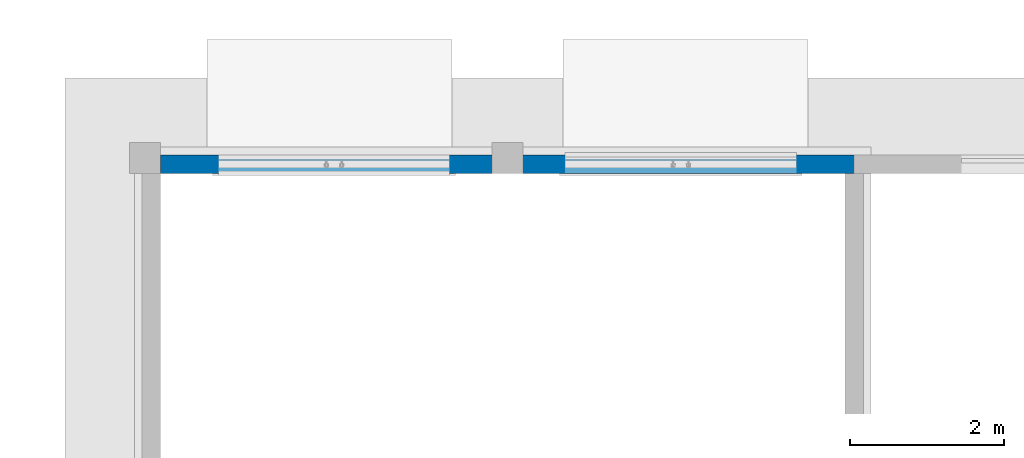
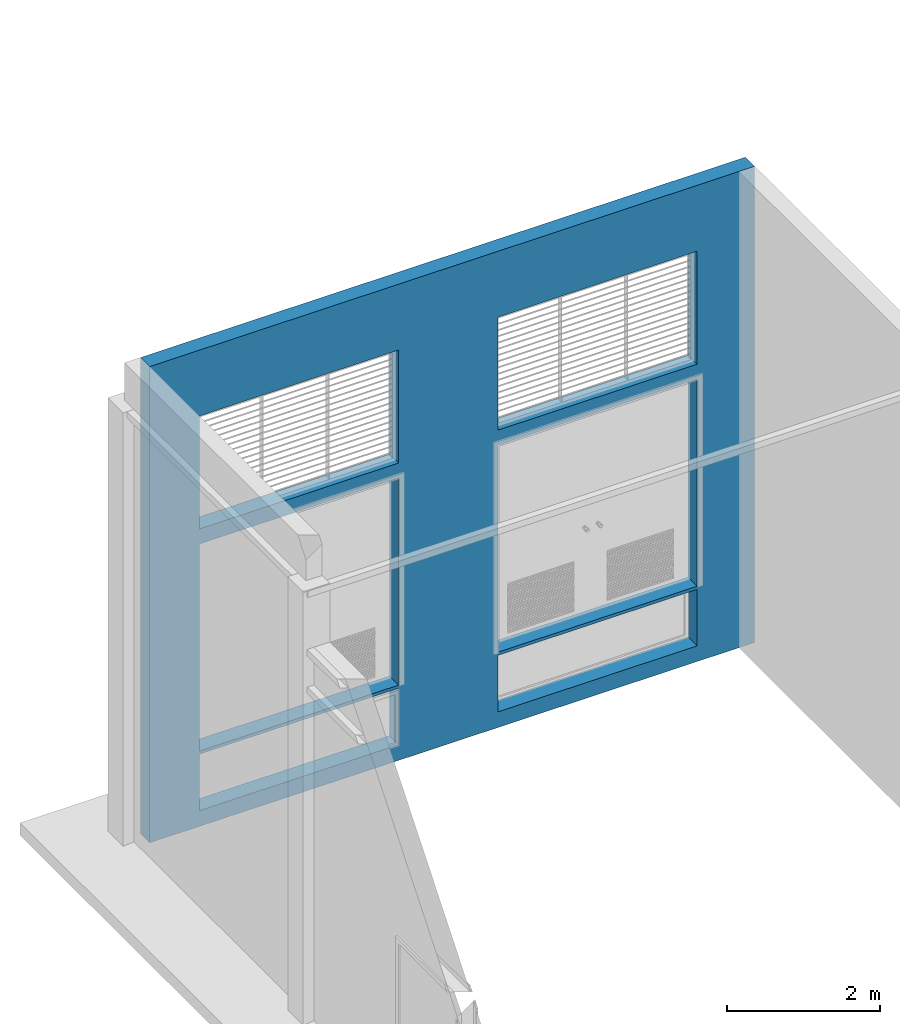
# One storey, part 3 of 8: 1 wall, 6 openings.
"""IFC2X3 building model written with IfcOpenShell, lengths in millimetres."""

from ifc_helpers import new_model, entity, si_unit, converted_unit, derived_unit, direction, frame, frame_2d, origin, place, context, subcontext, project, spatial, rectangle, extrude, material, layer, layer_set, layer_usage, type_object, element, save


model = new_model("IFC2X3")

# Units and contexts
model_context = context("Model", 3, precision=0.01, world=origin(), true_north=direction((6.12303176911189e-17, 1.0)))
body_context = subcontext(model_context, "Body", "Model", "MODEL_VIEW")
ifc_project = project(units=[si_unit("LENGTHUNIT", "METRE", prefix="MILLI"), si_unit("AREAUNIT", "SQUARE_METRE"), si_unit("VOLUMEUNIT", "CUBIC_METRE"), converted_unit("PLANEANGLEUNIT", "DEGREE", entity("IfcRatioMeasure", 0.0174532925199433), si_unit("PLANEANGLEUNIT", "RADIAN"), dimensions=[0, 0, 0, 0, 0, 0, 0]), si_unit("MASSUNIT", "GRAM", prefix="KILO"), derived_unit("MASSDENSITYUNIT", [(si_unit("MASSUNIT", "GRAM", prefix="KILO"), 1), (si_unit("LENGTHUNIT", "METRE"), -3)]), si_unit("TIMEUNIT", "SECOND"), si_unit("FREQUENCYUNIT", "HERTZ"), si_unit("THERMODYNAMICTEMPERATUREUNIT", "DEGREE_CELSIUS"), derived_unit("THERMALTRANSMITTANCEUNIT", [(si_unit("MASSUNIT", "GRAM", prefix="KILO"), 1), (si_unit("THERMODYNAMICTEMPERATUREUNIT", "KELVIN"), -1), (si_unit("TIMEUNIT", "SECOND"), -3)]), derived_unit("VOLUMETRICFLOWRATEUNIT", [(si_unit("LENGTHUNIT", "METRE"), 3), (si_unit("TIMEUNIT", "SECOND"), -1)]), si_unit("ELECTRICCURRENTUNIT", "AMPERE"), si_unit("ELECTRICVOLTAGEUNIT", "VOLT"), si_unit("POWERUNIT", "WATT"), si_unit("FORCEUNIT", "NEWTON", prefix="KILO"), si_unit("ILLUMINANCEUNIT", "LUX"), si_unit("LUMINOUSFLUXUNIT", "LUMEN"), si_unit("LUMINOUSINTENSITYUNIT", "CANDELA"), derived_unit("USERDEFINED", [(si_unit("MASSUNIT", "GRAM", prefix="KILO"), -1), (si_unit("LENGTHUNIT", "METRE"), -2), (si_unit("TIMEUNIT", "SECOND"), 3), (si_unit("LUMINOUSFLUXUNIT", "LUMEN"), 1)]), derived_unit("LINEARVELOCITYUNIT", [(si_unit("LENGTHUNIT", "METRE"), 1), (si_unit("TIMEUNIT", "SECOND"), -1)]), si_unit("PRESSUREUNIT", "PASCAL"), derived_unit("USERDEFINED", [(si_unit("LENGTHUNIT", "METRE"), -2), (si_unit("MASSUNIT", "GRAM", prefix="KILO"), 1), (si_unit("TIMEUNIT", "SECOND"), -2)])], contexts=[model_context])

# Site, building, storey
site_placement = place(None, origin())
site = spatial("IfcSite", under=ifc_project, at=site_placement, Name="表面", CompositionType="ELEMENT")
building_placement = place(site_placement, origin())
building = spatial("IfcBuilding", under=site, at=building_placement, CompositionType="ELEMENT")
storey_placement = place(building_placement, frame((0.0, 0.0, -200.0)))
storey = spatial("IfcBuildingStorey", under=building, at=storey_placement, Name="室外地坪", CompositionType="ELEMENT", Elevation=-200.0)

# Wall, openings
ifc_material = material(Name="砖石建筑 - 砖")
ifc_layer = layer(ifc_material, 240.0)
ifc_layer_set = layer_set([ifc_layer], Name="基本墙:外砖墙240")
ifc_layer_usage = layer_usage(ifc_layer_set, "AXIS2", "NEGATIVE", 120.0)
wall_type = type_object("IfcWallType", Name="基本墙:外砖墙240", PredefinedType="STANDARD", material=ifc_layer_set)
wall_placement = place(storey_placement, frame((-47528.7987814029, 15729.6974073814, 0.0)))
wall = element("IfcWallStandardCase", 1, at=wall_placement, inside=storey, type_object=wall_type, material=ifc_layer_usage, Name="基本墙:外砖墙240", ObjectType="基本墙:外砖墙240", context=body_context, shape_type="SweptSolid", body=[
    extrude(rectangle(XDim=9119.99999999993, YDim=240.000000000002, at=frame_2d((4559.99999999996, -2.20268248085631e-13), x_axis=(-1.0, 0.0))), origin(), (0.0, 0.0, 1.0), 7590.0),
])
opening_1_placement = place(wall_placement, frame((750.0, -120.0, 1200.0)))
element("IfcOpeningElement", 2, at=opening_1_placement, cuts=wall, Name="双扇平开门M-1:M-1:1", ObjectType="Opening", context=body_context, shape_type="SweptSolid", body=[
    extrude(rectangle(XDim=3299.99999999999, YDim=3000.0, at=frame_2d((1649.99999999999, 1500.0), x_axis=(1.0, 0.0))), frame((0.0, 0.0, 0.0), z_axis=(0.0, 1.0, 0.0), x_axis=(0.0, 0.0, 1.0)), (0.0, 0.0, 1.0), 240.0),
])
opening_2_placement = place(wall_placement, frame((5250.0, -120.0, 1200.0)))
element("IfcOpeningElement", 3, at=opening_2_placement, cuts=wall, Name="双扇平开门M-1:M-1:1", ObjectType="Opening", context=body_context, shape_type="SweptSolid", body=[
    extrude(rectangle(XDim=3299.99999999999, YDim=3000.0, at=frame_2d((1649.99999999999, 1500.0), x_axis=(1.0, 0.0))), frame((0.0, 0.0, 0.0), z_axis=(0.0, 1.0, 0.0), x_axis=(0.0, 0.0, 1.0)), (0.0, 0.0, 1.0), 240.0),
])
opening_3_placement = place(wall_placement, frame((5250.50010036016, -120.0, 250.0)))
element("IfcOpeningElement", 4, at=opening_3_placement, cuts=wall, Name="推拉窗（c-5）:推拉窗（c-5）:1", ObjectType="Opening", context=body_context, shape_type="SweptSolid", body=[
    extrude(rectangle(XDim=900.0, YDim=3000.0, at=frame_2d((450.0, 1500.0), x_axis=(1.0, 0.0))), frame((0.0, 0.0, 0.0), z_axis=(0.0, 1.0, 0.0), x_axis=(0.0, 0.0, 1.0)), (0.0, 0.0, 1.0), 240.0),
])
opening_4_placement = place(wall_placement, frame((3751.00010036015, 120.0, 250.0)))
element("IfcOpeningElement", 5, at=opening_4_placement, cuts=wall, Name="推拉窗（c-5）:推拉窗（c-5）:1", ObjectType="Opening", context=body_context, shape_type="SweptSolid", body=[
    extrude(rectangle(XDim=900.0, YDim=3000.0, at=frame_2d((450.0, 1500.0), x_axis=(1.0, 0.0))), frame((0.0, 0.0, 0.0), z_axis=(0.0, -1.0, 0.0), x_axis=(0.0, 0.0, 1.0)), (0.0, 0.0, 1.0), 240.0),
])
opening_5_placement = place(wall_placement, frame((5250.50010036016, -120.0, 4740.0)))
element("IfcOpeningElement", 6, at=opening_5_placement, cuts=wall, Name="百页窗（c-6）:铝合金百页:1", ObjectType="Opening", context=body_context, shape_type="SweptSolid", body=[
    extrude(rectangle(XDim=1800.0, YDim=3000.0, at=frame_2d((899.999999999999, 1500.0), x_axis=(1.0, 0.0))), frame((0.0, 0.0, 0.0), z_axis=(0.0, 1.0, 0.0), x_axis=(0.0, 0.0, 1.0)), (0.0, 0.0, 1.0), 240.0),
])
opening_6_placement = place(wall_placement, frame((751.000100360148, -120.0, 4740.0)))
element("IfcOpeningElement", 7, at=opening_6_placement, cuts=wall, Name="百页窗（c-6）:铝合金百页:1", ObjectType="Opening", context=body_context, shape_type="SweptSolid", body=[
    extrude(rectangle(XDim=1800.0, YDim=3000.0, at=frame_2d((899.999999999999, 1500.0), x_axis=(1.0, 0.0))), frame((0.0, 0.0, 0.0), z_axis=(0.0, 1.0, 0.0), x_axis=(0.0, 0.0, 1.0)), (0.0, 0.0, 1.0), 240.0),
])

save(model, "model.ifc")
